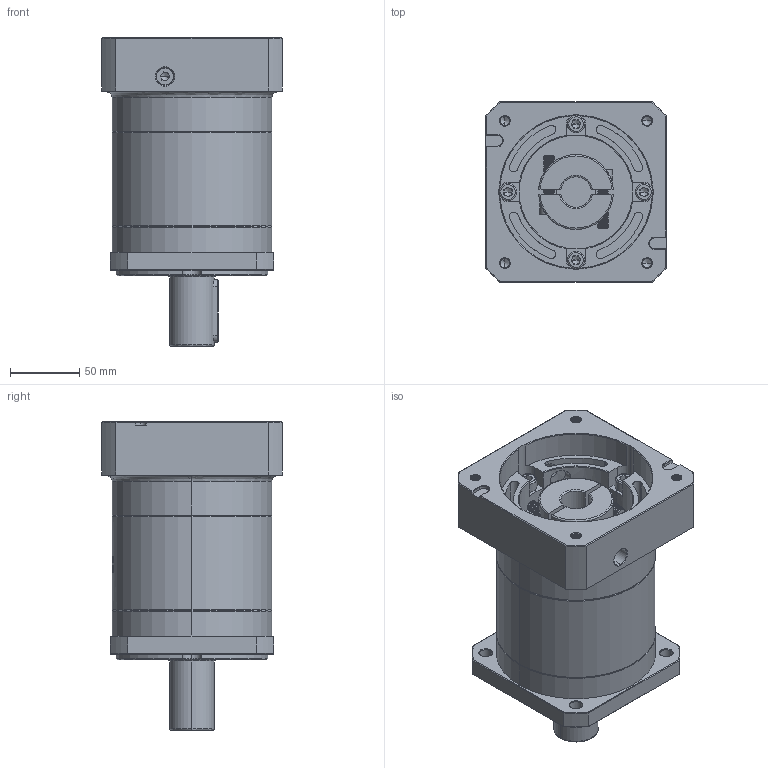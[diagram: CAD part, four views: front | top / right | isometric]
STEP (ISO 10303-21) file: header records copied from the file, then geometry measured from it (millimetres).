
FILE_DESCRIPTION (( 'STEP AP214' ), '1' );
FILE_NAME ('ZF120A-D32-L2-P2-22-110-145-M8.step', '2023-08-27T04:45:49', ( '' ), ( '' ), 'SwSTEP 2.0', 'SolidWorks 2016', '' );
FILE_SCHEMA (( 'AUTOMOTIVE_DESIGN' ));
Length unit declared in the file: millimetre
Products named in the file (1): ZF120A-D32-L2-P2-22-110-145-M8
Bounding box: 130 x 130 x 222.5 mm (x, y, z)
Volume: 1767107.4 mm3; surface area: 193495.6 mm2
Topology: 6 solids, 6 shells, 2276 faces, 6081 edges, 3904 vertices
Faces by surface type: plane 1060, cylinder 449, bspline 421, cone 328, torus 18
Entity records: 126579 total; most frequent: CARTESIAN_POINT 50215, ORIENTED_EDGE 12102, DIRECTION 8815, EDGE_CURVE 6051, VERTEX_POINT 3904, LINE 3173, VECTOR 3173, AXIS2_PLACEMENT_3D 2821
